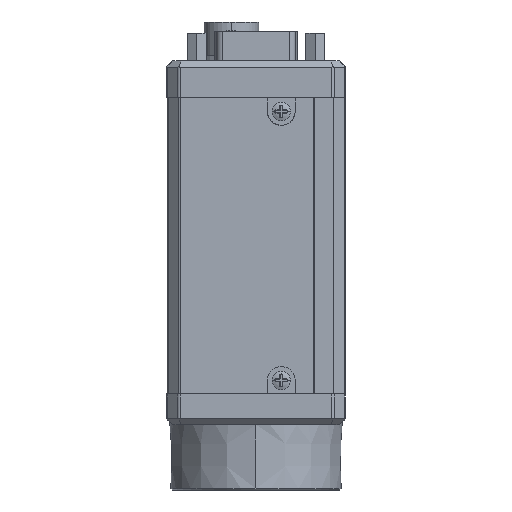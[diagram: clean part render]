
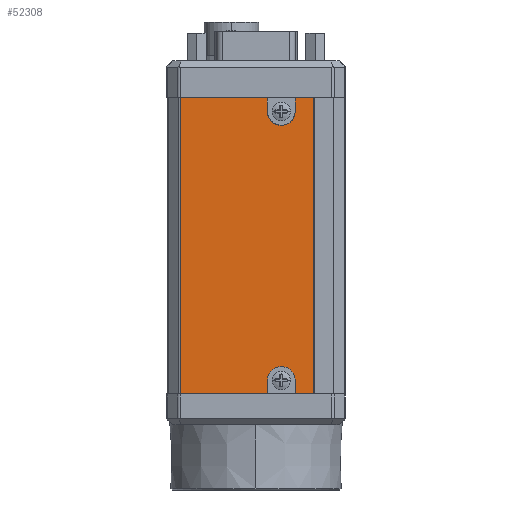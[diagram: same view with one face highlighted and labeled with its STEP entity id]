
A CAD part, left-side view. The second image highlights one B-rep face of the part: STEP entity #52308.
In plain terms, the highlighted planar face has unit normal (-1, 0, 0).
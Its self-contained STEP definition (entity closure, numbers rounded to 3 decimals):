
#49831=DIRECTION('',(0.,0.,-1.));
#49832=VECTOR('',#49831,48.);
#49833=CARTESIAN_POINT('',(-22.,12.185,53.));
#49834=LINE('',#49833,#49832);
#50015=DIRECTION('',(0.,1.,0.));
#50016=VECTOR('',#50015,3.05);
#50017=CARTESIAN_POINT('',(-22.,-9.4,5.));
#50018=LINE('',#50017,#50016);
#50066=CARTESIAN_POINT('',(-22.,-4.1,7.2));
#50067=DIRECTION('',(-1.,0.,0.));
#50068=DIRECTION('',(0.,-1.,0.));
#50069=AXIS2_PLACEMENT_3D('',#50066,#50067,#50068);
#50071=DIRECTION('',(0.,0.,-1.));
#50072=VECTOR('',#50071,2.2);
#50073=CARTESIAN_POINT('',(-22.,-1.85,7.2));
#50074=LINE('',#50073,#50072);
#50075=DIRECTION('',(0.,1.,0.));
#50076=VECTOR('',#50075,14.035);
#50077=CARTESIAN_POINT('',(-22.,-1.85,5.));
#50078=LINE('',#50077,#50076);
#50079=CARTESIAN_POINT('',(-22.,-1.85,50.8));
#50080=CARTESIAN_POINT('',(-22.,-1.85,50.734));
#50081=CARTESIAN_POINT('',(-22.,-1.856,50.604));
#50082=CARTESIAN_POINT('',(-22.,-1.881,50.409));
#50083=CARTESIAN_POINT('',(-22.,-1.924,50.217));
#50084=CARTESIAN_POINT('',(-22.,-1.983,50.03));
#50085=CARTESIAN_POINT('',(-22.,-2.058,49.848));
#50086=CARTESIAN_POINT('',(-22.,-2.149,49.673));
#50087=CARTESIAN_POINT('',(-22.,-2.255,49.507));
#50088=CARTESIAN_POINT('',(-22.,-2.374,49.352));
#50089=CARTESIAN_POINT('',(-22.,-2.507,49.207));
#50090=CARTESIAN_POINT('',(-22.,-2.652,49.074));
#50091=CARTESIAN_POINT('',(-22.,-2.808,48.955));
#50092=CARTESIAN_POINT('',(-22.,-2.973,48.849));
#50093=CARTESIAN_POINT('',(-22.,-3.148,48.758));
#50094=CARTESIAN_POINT('',(-22.,-3.33,48.683));
#50095=CARTESIAN_POINT('',(-22.,-3.517,48.624));
#50096=CARTESIAN_POINT('',(-22.,-3.709,48.581));
#50097=CARTESIAN_POINT('',(-22.,-3.904,48.556));
#50098=CARTESIAN_POINT('',(-22.,-4.1,48.547));
#50099=CARTESIAN_POINT('',(-22.,-4.297,48.556));
#50100=CARTESIAN_POINT('',(-22.,-4.491,48.581));
#50101=CARTESIAN_POINT('',(-22.,-4.683,48.624));
#50102=CARTESIAN_POINT('',(-22.,-4.871,48.683));
#50103=CARTESIAN_POINT('',(-22.,-5.052,48.758));
#50104=CARTESIAN_POINT('',(-22.,-5.226,48.849));
#50105=CARTESIAN_POINT('',(-22.,-5.392,48.955));
#50106=CARTESIAN_POINT('',(-22.,-5.548,49.074));
#50107=CARTESIAN_POINT('',(-22.,-5.693,49.207));
#50108=CARTESIAN_POINT('',(-22.,-5.826,49.352));
#50109=CARTESIAN_POINT('',(-22.,-5.945,49.507));
#50110=CARTESIAN_POINT('',(-22.,-6.051,49.673));
#50111=CARTESIAN_POINT('',(-22.,-6.142,49.847));
#50112=CARTESIAN_POINT('',(-22.,-6.217,50.029));
#50113=CARTESIAN_POINT('',(-22.,-6.276,50.216));
#50114=CARTESIAN_POINT('',(-22.,-6.319,50.408));
#50115=CARTESIAN_POINT('',(-22.,-6.344,50.603));
#50116=CARTESIAN_POINT('',(-22.,-6.35,50.734));
#50117=CARTESIAN_POINT('',(-22.,-6.35,50.8));
#50119=DIRECTION('',(0.,0.,1.));
#50120=VECTOR('',#50119,2.2);
#50121=CARTESIAN_POINT('',(-22.,-6.35,5.));
#50122=LINE('',#50121,#50120);
#50143=DIRECTION('',(0.,1.,0.));
#50144=VECTOR('',#50143,14.035);
#50145=CARTESIAN_POINT('',(-22.,-1.85,53.));
#50146=LINE('',#50145,#50144);
#50283=DIRECTION('',(0.,1.,0.));
#50284=VECTOR('',#50283,3.05);
#50285=CARTESIAN_POINT('',(-22.,-9.4,53.));
#50286=LINE('',#50285,#50284);
#50287=DIRECTION('',(0.,0.,1.));
#50288=VECTOR('',#50287,48.);
#50289=CARTESIAN_POINT('',(-22.,-9.4,5.));
#50290=LINE('',#50289,#50288);
#50307=DIRECTION('',(0.,0.,-1.));
#50308=VECTOR('',#50307,2.2);
#50309=CARTESIAN_POINT('',(-22.,-6.35,53.));
#50310=LINE('',#50309,#50308);
#50365=DIRECTION('',(0.,0.,1.));
#50366=VECTOR('',#50365,2.2);
#50367=CARTESIAN_POINT('',(-22.,-1.85,50.8));
#50368=LINE('',#50367,#50366);
#51372=VERTEX_POINT('',#50079);
#51373=VERTEX_POINT('',#50117);
#51502=CARTESIAN_POINT('',(-22.,12.185,53.));
#51503=VERTEX_POINT('',#51502);
#51504=CARTESIAN_POINT('',(-22.,12.185,5.));
#51505=VERTEX_POINT('',#51504);
#51513=CARTESIAN_POINT('',(-22.,-1.85,5.));
#51515=VERTEX_POINT('',#51513);
#51560=CARTESIAN_POINT('',(-22.,-6.35,5.));
#51561=VERTEX_POINT('',#51560);
#51562=CARTESIAN_POINT('',(-22.,-6.35,7.2));
#51563=VERTEX_POINT('',#51562);
#51564=CARTESIAN_POINT('',(-22.,-1.85,7.2));
#51565=VERTEX_POINT('',#51564);
#51566=CARTESIAN_POINT('',(-22.,-9.4,5.));
#51567=VERTEX_POINT('',#51566);
#51568=CARTESIAN_POINT('',(-22.,-9.4,53.));
#51569=VERTEX_POINT('',#51568);
#51570=CARTESIAN_POINT('',(-22.,-6.35,53.));
#51571=VERTEX_POINT('',#51570);
#51572=CARTESIAN_POINT('',(-22.,-1.85,53.));
#51573=VERTEX_POINT('',#51572);
#52282=CARTESIAN_POINT('',(-22.,1.392,29.));
#52283=DIRECTION('',(1.,0.,0.));
#52284=DIRECTION('',(0.,-1.,0.));
#52285=AXIS2_PLACEMENT_3D('',#52282,#52283,#52284);
#52286=PLANE('',#52285);
#52288=ORIENTED_EDGE('',*,*,#52287,.T.);
#52289=ORIENTED_EDGE('',*,*,#52275,.T.);
#52290=ORIENTED_EDGE('',*,*,#52098,.T.);
#52291=ORIENTED_EDGE('',*,*,#52007,.F.);
#52293=ORIENTED_EDGE('',*,*,#52292,.F.);
#52295=ORIENTED_EDGE('',*,*,#52294,.F.);
#52297=ORIENTED_EDGE('',*,*,#52296,.T.);
#52299=ORIENTED_EDGE('',*,*,#52298,.F.);
#52301=ORIENTED_EDGE('',*,*,#52300,.F.);
#52303=ORIENTED_EDGE('',*,*,#52302,.F.);
#52304=ORIENTED_EDGE('',*,*,#52212,.T.);
#52305=ORIENTED_EDGE('',*,*,#52242,.T.);
#52306=EDGE_LOOP('',(#52288,#52289,#52290,#52291,#52293,#52295,#52297,#52299,
#52301,#52303,#52304,#52305));
#52307=FACE_OUTER_BOUND('',#52306,.F.);
#52308=ADVANCED_FACE('',(#52307),#52286,.F.);
#50070=CIRCLE('',#50069,2.25);
#50118=B_SPLINE_CURVE_WITH_KNOTS('',3,(#50079,#50080,#50081,#50082,#50083,
#50084,#50085,#50086,#50087,#50088,#50089,#50090,#50091,#50092,#50093,#50094,
#50095,#50096,#50097,#50098,#50099,#50100,#50101,#50102,#50103,#50104,#50105,
#50106,#50107,#50108,#50109,#50110,#50111,#50112,#50113,#50114,#50115,#50116,
#50117),.UNSPECIFIED.,.F.,.F.,(4,1,1,1,1,1,1,1,1,1,1,1,1,1,1,1,1,1,1,1,1,1,1,1,
1,1,1,1,1,1,1,1,1,1,1,1,4),(0.,0.028,0.056,
0.083,0.111,0.139,0.167,
0.194,0.222,0.25,0.278,0.306,
0.333,0.361,0.389,0.417,
0.444,0.472,0.5,0.528,0.556,
0.583,0.611,0.639,0.667,
0.694,0.722,0.75,0.778,0.806,
0.833,0.861,0.889,0.917,
0.944,0.972,1.),.UNSPECIFIED.);
#52007=EDGE_CURVE('',#51503,#51505,#49834,.T.);
#52098=EDGE_CURVE('',#51515,#51505,#50078,.T.);
#52212=EDGE_CURVE('',#51567,#51561,#50018,.T.);
#52242=EDGE_CURVE('',#51561,#51563,#50122,.T.);
#52275=EDGE_CURVE('',#51565,#51515,#50074,.T.);
#52287=EDGE_CURVE('',#51563,#51565,#50070,.T.);
#52292=EDGE_CURVE('',#51573,#51503,#50146,.T.);
#52294=EDGE_CURVE('',#51372,#51573,#50368,.T.);
#52296=EDGE_CURVE('',#51372,#51373,#50118,.T.);
#52298=EDGE_CURVE('',#51571,#51373,#50310,.T.);
#52300=EDGE_CURVE('',#51569,#51571,#50286,.T.);
#52302=EDGE_CURVE('',#51567,#51569,#50290,.T.);
